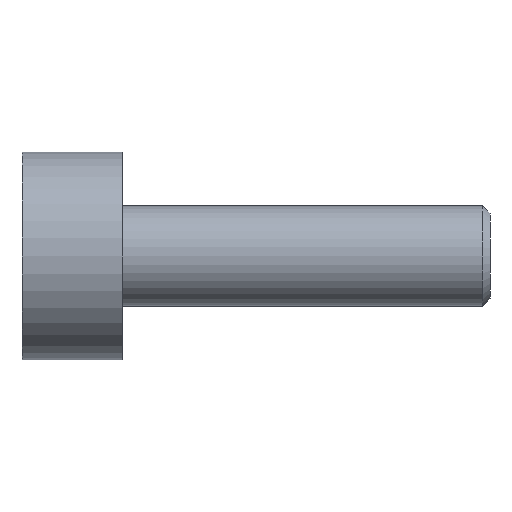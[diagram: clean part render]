
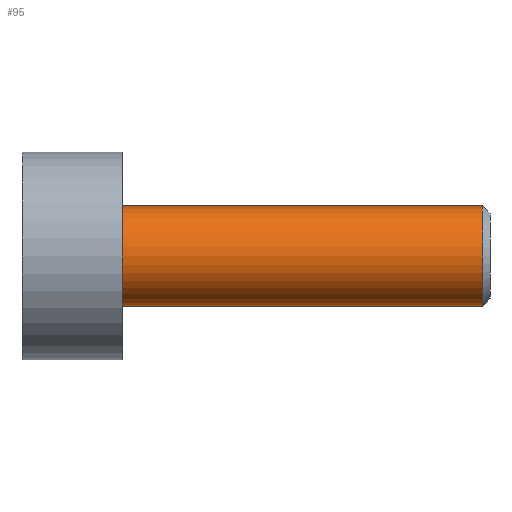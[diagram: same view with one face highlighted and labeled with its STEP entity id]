
A CAD part, front view. The second image highlights one B-rep face of the part: STEP entity #95.
In plain terms, the highlighted cylindrical face has radius 1.5 mm (diameter 3 mm), a full revolution.
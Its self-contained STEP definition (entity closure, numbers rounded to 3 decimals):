
#95 = ADVANCED_FACE( '', ( #164, #165 ), #166, .T. );
#164 = FACE_OUTER_BOUND( '', #256, .T. );
#165 = FACE_OUTER_BOUND( '', #257, .T. );
#166 = CYLINDRICAL_SURFACE( '', #258, 1.5 );
#256 = EDGE_LOOP( '', ( #467 ) );
#257 = EDGE_LOOP( '', ( #468 ) );
#258 = AXIS2_PLACEMENT_3D( '', #469, #470, #471 );
#467 = ORIENTED_EDGE( '', *, *, #694, .F. );
#468 = ORIENTED_EDGE( '', *, *, #695, .T. );
#469 = CARTESIAN_POINT( '', ( 11., 0., 0. ) );
#470 = DIRECTION( '', ( -1., 0., 0. ) );
#471 = DIRECTION( '', ( 0., 0., -1. ) );
#694 = EDGE_CURVE( '', #845, #845, #846, .T. );
#695 = EDGE_CURVE( '', #847, #847, #848, .T. );
#845 = VERTEX_POINT( '', #1056 );
#846 = CIRCLE( '', #1057, 1.5 );
#847 = VERTEX_POINT( '', #1058 );
#848 = CIRCLE( '', #1059, 1.5 );
#1056 = CARTESIAN_POINT( '', ( 10.786, 0., -1.5 ) );
#1057 = AXIS2_PLACEMENT_3D( '', #1247, #1248, #1249 );
#1058 = CARTESIAN_POINT( '', ( 0., 0., -1.5 ) );
#1059 = AXIS2_PLACEMENT_3D( '', #1250, #1251, #1252 );
#1247 = CARTESIAN_POINT( '', ( 10.786, 0., 0. ) );
#1248 = DIRECTION( '', ( 1., 0., 0. ) );
#1249 = DIRECTION( '', ( 0., 0., -1. ) );
#1250 = CARTESIAN_POINT( '', ( 0., 0., 0. ) );
#1251 = DIRECTION( '', ( 1., 0., 0. ) );
#1252 = DIRECTION( '', ( 0., 0., -1. ) );
